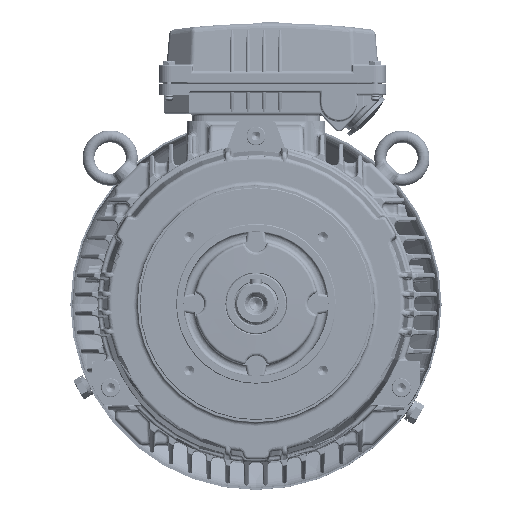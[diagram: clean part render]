
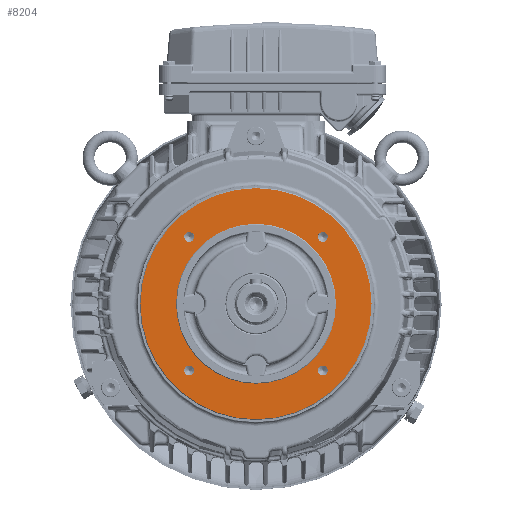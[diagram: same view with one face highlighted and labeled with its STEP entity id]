
A CAD part, top view. The second image highlights one B-rep face of the part: STEP entity #8204.
In plain terms, the highlighted planar face has unit normal (0, 0, 1).
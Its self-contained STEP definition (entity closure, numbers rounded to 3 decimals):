
#1640 = AXIS2_PLACEMENT_3D ( 'NONE', #164986, #30537, #53120 ) ;
#3573 = VERTEX_POINT ( 'NONE', #130940 ) ;
#8204 = ADVANCED_FACE ( 'NONE', ( #38303, #224536, #62780, #157700, #175146, #249035 ), #214342, .T. ) ;
#9279 = CARTESIAN_POINT ( 'NONE',  ( -42.562, 45.962, 140. ) ) ;
#10038 = ORIENTED_EDGE ( 'NONE', *, *, #194880, .F. ) ;
#11421 = VERTEX_POINT ( 'NONE', #266091 ) ;
#11522 = DIRECTION ( 'NONE',  ( 0., 0., 1. ) ) ;
#14755 = EDGE_LOOP ( 'NONE', ( #251789, #193918 ) ) ;
#21820 = DIRECTION ( 'NONE',  ( 0., 0., 1. ) ) ;
#22052 = CIRCLE ( 'NONE', #1640, 55.001 ) ;
#23649 = AXIS2_PLACEMENT_3D ( 'NONE', #170942, #150228, #38437 ) ;
#30537 = DIRECTION ( 'NONE',  ( 0., 0., 1. ) ) ;
#32002 = EDGE_CURVE ( 'NONE', #244593, #221423, #84615, .T. ) ;
#32014 = CARTESIAN_POINT ( 'NONE',  ( -45.962, -45.962, 140. ) ) ;
#32315 = EDGE_LOOP ( 'NONE', ( #223711, #223199 ) ) ;
#33110 = DIRECTION ( 'NONE',  ( 0., 0., 1. ) ) ;
#33171 = AXIS2_PLACEMENT_3D ( 'NONE', #192246, #193194, #148986 ) ;
#33794 = DIRECTION ( 'NONE',  ( 0., 0., 1. ) ) ;
#35892 = CIRCLE ( 'NONE', #181411, 3.4 ) ;
#38303 = FACE_OUTER_BOUND ( 'NONE', #52600, .T. ) ;
#38437 = DIRECTION ( 'NONE',  ( 1., 0., 0. ) ) ;
#38611 = CARTESIAN_POINT ( 'NONE',  ( 0., 0., 140. ) ) ;
#40056 = CARTESIAN_POINT ( 'NONE',  ( 55.001, 0., 140. ) ) ;
#40588 = DIRECTION ( 'NONE',  ( 0., 0., 1. ) ) ;
#43689 = EDGE_CURVE ( 'NONE', #86627, #3573, #150149, .T. ) ;
#44834 = EDGE_CURVE ( 'NONE', #186196, #258484, #167146, .T. ) ;
#50185 = EDGE_CURVE ( 'NONE', #214522, #118276, #249278, .T. ) ;
#51137 = CARTESIAN_POINT ( 'NONE',  ( 0., 0., 140. ) ) ;
#52600 = EDGE_LOOP ( 'NONE', ( #289858, #251430 ) ) ;
#53120 = DIRECTION ( 'NONE',  ( 1., 0., 0. ) ) ;
#54059 = EDGE_CURVE ( 'NONE', #177123, #204538, #22052, .T. ) ;
#61534 = DIRECTION ( 'NONE',  ( 0., 0., 1. ) ) ;
#62780 = FACE_BOUND ( 'NONE', #73824, .T. ) ;
#73573 = CARTESIAN_POINT ( 'NONE',  ( -79.5, 0., 140. ) ) ;
#73824 = EDGE_LOOP ( 'NONE', ( #10038, #178259 ) ) ;
#76685 = CIRCLE ( 'NONE', #129502, 3.4 ) ;
#84615 = CIRCLE ( 'NONE', #33171, 3.4 ) ;
#86627 = VERTEX_POINT ( 'NONE', #257586 ) ;
#92099 = EDGE_CURVE ( 'NONE', #118276, #214522, #76685, .T. ) ;
#94878 = EDGE_CURVE ( 'NONE', #182902, #11421, #168175, .T. ) ;
#107644 = CARTESIAN_POINT ( 'NONE',  ( -45.962, -45.962, 140. ) ) ;
#110687 = ORIENTED_EDGE ( 'NONE', *, *, #239100, .F. ) ;
#114707 = CARTESIAN_POINT ( 'NONE',  ( 45.962, 45.962, 140. ) ) ;
#118276 = VERTEX_POINT ( 'NONE', #207641 ) ;
#118624 = CARTESIAN_POINT ( 'NONE',  ( 0., 0., 140. ) ) ;
#118684 = EDGE_LOOP ( 'NONE', ( #277173, #197619 ) ) ;
#122419 = DIRECTION ( 'NONE',  ( 1., 0., 0. ) ) ;
#123281 = AXIS2_PLACEMENT_3D ( 'NONE', #289939, #134976, #224279 ) ;
#129502 = AXIS2_PLACEMENT_3D ( 'NONE', #156231, #21820, #178836 ) ;
#130940 = CARTESIAN_POINT ( 'NONE',  ( -42.562, -45.962, 140. ) ) ;
#134976 = DIRECTION ( 'NONE',  ( 0., 0., 1. ) ) ;
#148986 = DIRECTION ( 'NONE',  ( 1., 0., 0. ) ) ;
#150149 = CIRCLE ( 'NONE', #283479, 3.4 ) ;
#150228 = DIRECTION ( 'NONE',  ( 0., 0., 1. ) ) ;
#150440 = ORIENTED_EDGE ( 'NONE', *, *, #32002, .F. ) ;
#156231 = CARTESIAN_POINT ( 'NONE',  ( 45.962, -45.962, 140. ) ) ;
#157700 = FACE_BOUND ( 'NONE', #14755, .T. ) ;
#158808 = DIRECTION ( 'NONE',  ( 0., 0., 1. ) ) ;
#164986 = CARTESIAN_POINT ( 'NONE',  ( 0., 0., 140. ) ) ;
#165888 = DIRECTION ( 'NONE',  ( 1., 0., 0. ) ) ;
#167146 = CIRCLE ( 'NONE', #242290, 3.4 ) ;
#168175 = CIRCLE ( 'NONE', #177140, 79.5 ) ;
#168332 = DIRECTION ( 'NONE',  ( 0., 0., 1. ) ) ;
#170805 = CARTESIAN_POINT ( 'NONE',  ( 42.562, 45.962, 140. ) ) ;
#170942 = CARTESIAN_POINT ( 'NONE',  ( 45.962, 45.962, 140. ) ) ;
#175146 = FACE_BOUND ( 'NONE', #118684, .T. ) ;
#177123 = VERTEX_POINT ( 'NONE', #229667 ) ;
#177140 = AXIS2_PLACEMENT_3D ( 'NONE', #38611, #40588, #240749 ) ;
#178259 = ORIENTED_EDGE ( 'NONE', *, *, #43689, .F. ) ;
#178836 = DIRECTION ( 'NONE',  ( 1., 0., 0. ) ) ;
#181411 = AXIS2_PLACEMENT_3D ( 'NONE', #32014, #168332, #187037 ) ;
#182902 = VERTEX_POINT ( 'NONE', #73573 ) ;
#186196 = VERTEX_POINT ( 'NONE', #170805 ) ;
#187037 = DIRECTION ( 'NONE',  ( 1., 0., 0. ) ) ;
#187189 = CARTESIAN_POINT ( 'NONE',  ( -49.362, 45.962, 140. ) ) ;
#187865 = AXIS2_PLACEMENT_3D ( 'NONE', #51137, #233559, #165888 ) ;
#192246 = CARTESIAN_POINT ( 'NONE',  ( -45.962, 45.962, 140. ) ) ;
#193194 = DIRECTION ( 'NONE',  ( 0., 0., 1. ) ) ;
#193918 = ORIENTED_EDGE ( 'NONE', *, *, #92099, .F. ) ;
#194880 = EDGE_CURVE ( 'NONE', #3573, #86627, #35892, .T. ) ;
#197619 = ORIENTED_EDGE ( 'NONE', *, *, #44834, .F. ) ;
#204538 = VERTEX_POINT ( 'NONE', #40056 ) ;
#204854 = EDGE_CURVE ( 'NONE', #11421, #182902, #205113, .T. ) ;
#205113 = CIRCLE ( 'NONE', #255349, 79.5 ) ;
#206230 = CIRCLE ( 'NONE', #187865, 55.001 ) ;
#207641 = CARTESIAN_POINT ( 'NONE',  ( 42.562, -45.962, 140. ) ) ;
#213394 = CARTESIAN_POINT ( 'NONE',  ( 0., 80., 140. ) ) ;
#214342 = PLANE ( 'NONE',  #272409 ) ;
#214522 = VERTEX_POINT ( 'NONE', #232145 ) ;
#215494 = CIRCLE ( 'NONE', #23649, 3.4 ) ;
#221423 = VERTEX_POINT ( 'NONE', #187189 ) ;
#223199 = ORIENTED_EDGE ( 'NONE', *, *, #54059, .F. ) ;
#223711 = ORIENTED_EDGE ( 'NONE', *, *, #260140, .F. ) ;
#224279 = DIRECTION ( 'NONE',  ( 1., 0., 0. ) ) ;
#224536 = FACE_BOUND ( 'NONE', #251817, .T. ) ;
#225249 = CIRCLE ( 'NONE', #268695, 3.4 ) ;
#229667 = CARTESIAN_POINT ( 'NONE',  ( -55.001, 0., 140. ) ) ;
#232145 = CARTESIAN_POINT ( 'NONE',  ( 49.362, -45.962, 140. ) ) ;
#233559 = DIRECTION ( 'NONE',  ( 0., 0., 1. ) ) ;
#236070 = CARTESIAN_POINT ( 'NONE',  ( 49.362, 45.962, 140. ) ) ;
#239100 = EDGE_CURVE ( 'NONE', #221423, #244593, #225249, .T. ) ;
#240749 = DIRECTION ( 'NONE',  ( 1., 0., 0. ) ) ;
#242290 = AXIS2_PLACEMENT_3D ( 'NONE', #114707, #158808, #271730 ) ;
#244593 = VERTEX_POINT ( 'NONE', #9279 ) ;
#249035 = FACE_BOUND ( 'NONE', #32315, .T. ) ;
#249278 = CIRCLE ( 'NONE', #123281, 3.4 ) ;
#251430 = ORIENTED_EDGE ( 'NONE', *, *, #204854, .T. ) ;
#251789 = ORIENTED_EDGE ( 'NONE', *, *, #50185, .F. ) ;
#251817 = EDGE_LOOP ( 'NONE', ( #150440, #110687 ) ) ;
#253979 = DIRECTION ( 'NONE',  ( 1., 0., 0. ) ) ;
#255349 = AXIS2_PLACEMENT_3D ( 'NONE', #118624, #33110, #253979 ) ;
#257586 = CARTESIAN_POINT ( 'NONE',  ( -49.362, -45.962, 140. ) ) ;
#257691 = EDGE_CURVE ( 'NONE', #258484, #186196, #215494, .T. ) ;
#258484 = VERTEX_POINT ( 'NONE', #236070 ) ;
#260140 = EDGE_CURVE ( 'NONE', #204538, #177123, #206230, .T. ) ;
#261377 = DIRECTION ( 'NONE',  ( 1., 0., 0. ) ) ;
#264690 = DIRECTION ( 'NONE',  ( 1., 0., 0. ) ) ;
#266091 = CARTESIAN_POINT ( 'NONE',  ( 79.5, 0., 140. ) ) ;
#268695 = AXIS2_PLACEMENT_3D ( 'NONE', #285268, #11522, #122419 ) ;
#271730 = DIRECTION ( 'NONE',  ( 1., 0., 0. ) ) ;
#272409 = AXIS2_PLACEMENT_3D ( 'NONE', #213394, #33794, #261377 ) ;
#277173 = ORIENTED_EDGE ( 'NONE', *, *, #257691, .F. ) ;
#283479 = AXIS2_PLACEMENT_3D ( 'NONE', #107644, #61534, #264690 ) ;
#285268 = CARTESIAN_POINT ( 'NONE',  ( -45.962, 45.962, 140. ) ) ;
#289858 = ORIENTED_EDGE ( 'NONE', *, *, #94878, .T. ) ;
#289939 = CARTESIAN_POINT ( 'NONE',  ( 45.962, -45.962, 140. ) ) ;
